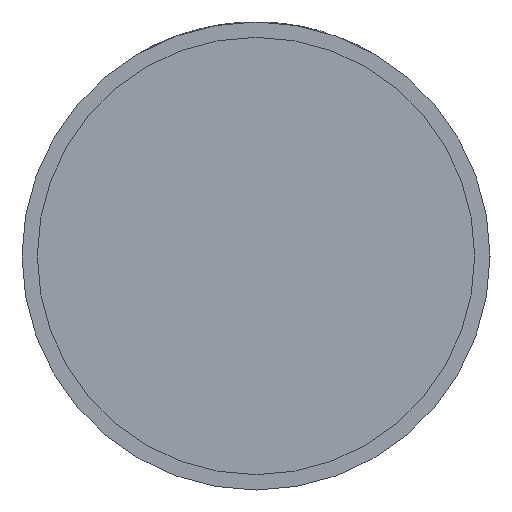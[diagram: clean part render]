
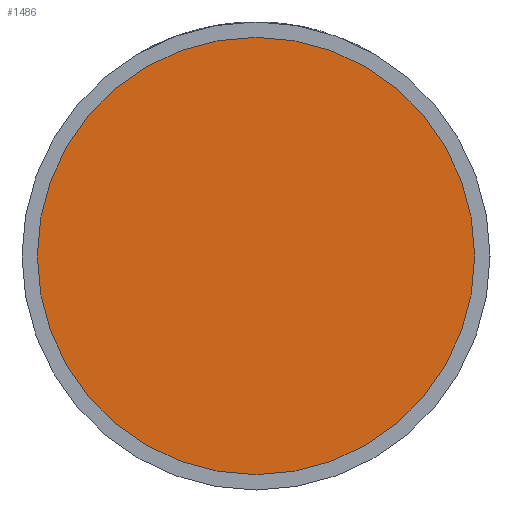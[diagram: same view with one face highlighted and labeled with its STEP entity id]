
A CAD part, front view. The second image highlights one B-rep face of the part: STEP entity #1486.
In plain terms, the highlighted planar face has unit normal (0, -1, 0).
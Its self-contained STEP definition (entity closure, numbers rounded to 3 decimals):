
#401 = VERTEX_POINT ( 'NONE', #3638 ) ;
#488 = ORIENTED_EDGE ( 'NONE', *, *, #880, .T. ) ;
#661 = DIRECTION ( 'NONE',  ( 1., 0., 0. ) ) ;
#745 = CIRCLE ( 'NONE', #2609, 28.5 ) ;
#880 = EDGE_CURVE ( 'NONE', #401, #4081, #1005, .T. ) ;
#1005 = CIRCLE ( 'NONE', #1071, 28.5 ) ;
#1071 = AXIS2_PLACEMENT_3D ( 'NONE', #3598, #3645, #3255 ) ;
#1287 = DIRECTION ( 'NONE',  ( 1., 0., 0. ) ) ;
#1328 = CARTESIAN_POINT ( 'NONE',  ( -28.5, -17.5, 0. ) ) ;
#1486 = ADVANCED_FACE ( 'NONE', ( #2281 ), #3019, .T. ) ;
#2033 = ORIENTED_EDGE ( 'NONE', *, *, #2247, .T. ) ;
#2247 = EDGE_CURVE ( 'NONE', #4081, #401, #745, .T. ) ;
#2281 = FACE_OUTER_BOUND ( 'NONE', #2531, .T. ) ;
#2285 = CARTESIAN_POINT ( 'NONE',  ( 0., -17.5, 0. ) ) ;
#2531 = EDGE_LOOP ( 'NONE', ( #488, #2033 ) ) ;
#2609 = AXIS2_PLACEMENT_3D ( 'NONE', #2285, #3347, #1287 ) ;
#2668 = CARTESIAN_POINT ( 'NONE',  ( 28.5, -17.5, 0. ) ) ;
#3019 = PLANE ( 'NONE',  #4287 ) ;
#3255 = DIRECTION ( 'NONE',  ( 1., 0., 0. ) ) ;
#3347 = DIRECTION ( 'NONE',  ( 0., -1., 0. ) ) ;
#3365 = DIRECTION ( 'NONE',  ( 0., -1., 0. ) ) ;
#3598 = CARTESIAN_POINT ( 'NONE',  ( 0., -17.5, 0. ) ) ;
#3638 = CARTESIAN_POINT ( 'NONE',  ( 28.5, -17.5, 0. ) ) ;
#3645 = DIRECTION ( 'NONE',  ( 0., -1., 0. ) ) ;
#4081 = VERTEX_POINT ( 'NONE', #1328 ) ;
#4287 = AXIS2_PLACEMENT_3D ( 'NONE', #2668, #3365, #661 ) ;
